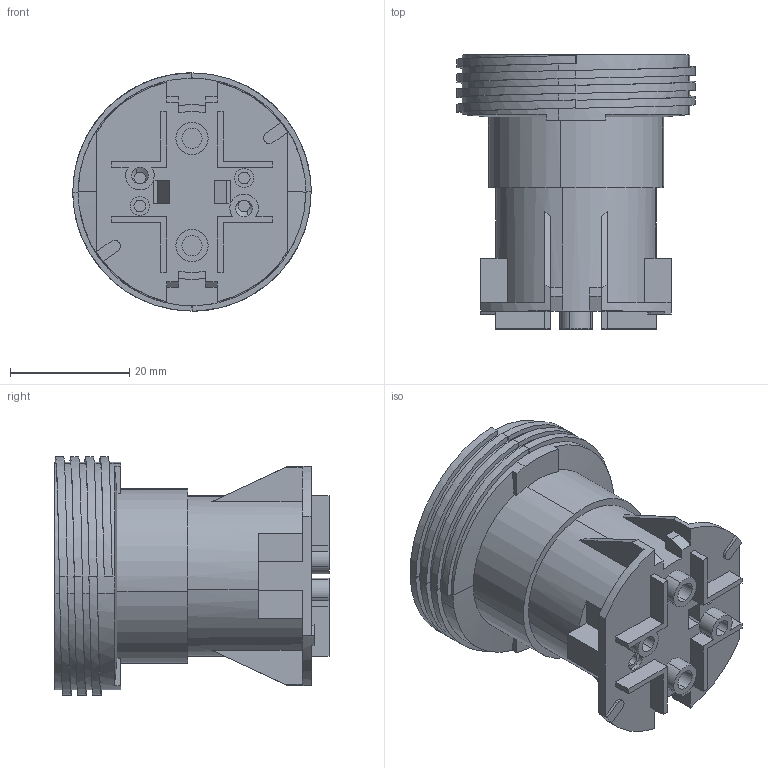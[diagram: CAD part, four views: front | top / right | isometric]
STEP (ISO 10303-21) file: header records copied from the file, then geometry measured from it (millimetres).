
FILE_DESCRIPTION(('Surface Model. B-Spline boundary curves.'),'1');
FILE_NAME('C:\Programme\CORETECH\in\22_318_3306.step','2001-11-23 T',(' '),(' '),'STEP Interface v190.0 by CORETECH International','TRANS-3D v190.0 by CORETECH International',' ');
FILE_SCHEMA(('CONFIG_CONTROL_DESIGN'));
Length unit declared in the file: millimetre
Products named in the file (1): 22_318_3306
Bounding box: 40 x 46 x 40 mm (x, y, z)
Volume: 14133.9 mm3; surface area: 12501.9 mm2
Topology: 1 solids, 1 shells, 542 faces, 1468 edges, 968 vertices
Faces by surface type: plane 312, cylinder 144, bspline 78, cone 8
Entity records: 20396 total; most frequent: CARTESIAN_POINT 6885, ORIENTED_EDGE 2936, DIRECTION 2576, EDGE_CURVE 1468, VECTOR 1078, LINE 1078, VERTEX_POINT 968, AXIS2_PLACEMENT_3D 749
